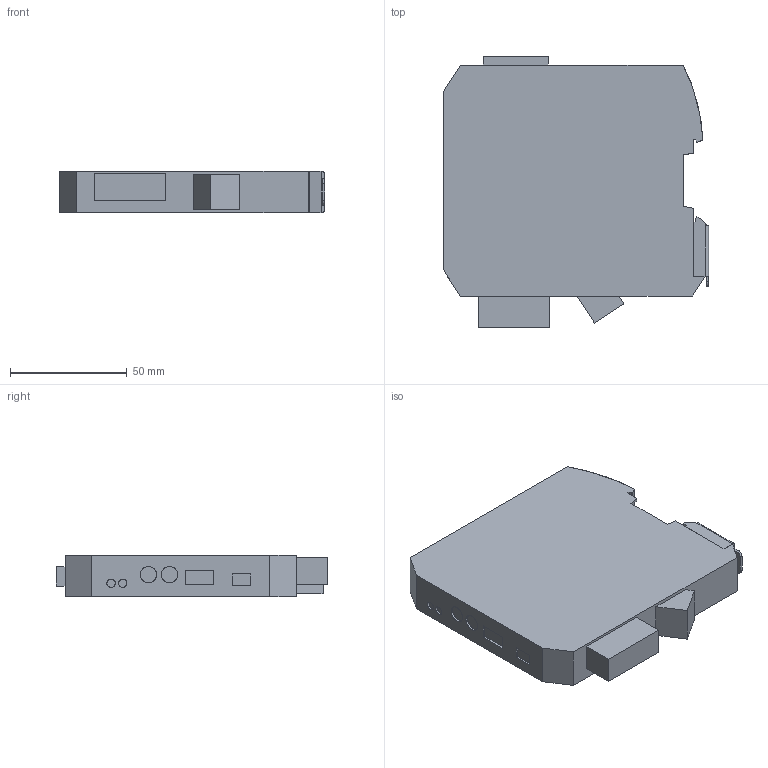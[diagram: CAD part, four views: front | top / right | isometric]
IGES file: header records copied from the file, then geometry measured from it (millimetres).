
Start section: SolidWorks IGES file using analytic representation for surfaces
Global section: file name: C:\Users\7666\Desktop\CSB-BZ\PDSB-BZ\PDSB-BZ_3D.IGS; native system: SolidWorks 2018; preprocessor: SolidWorks 2018; author: 7666; date: 220414.114707; units: millimetre
Bounding box: 113.6 x 116.3 x 17.6 mm (x, y, z)
Surface area: 30865.9 mm2 (no closed solid volume)
Topology: 0 solids, 0 shells, 106 faces, 884 edges, 884 vertices
Faces by surface type: bspline 92, revolution 14
